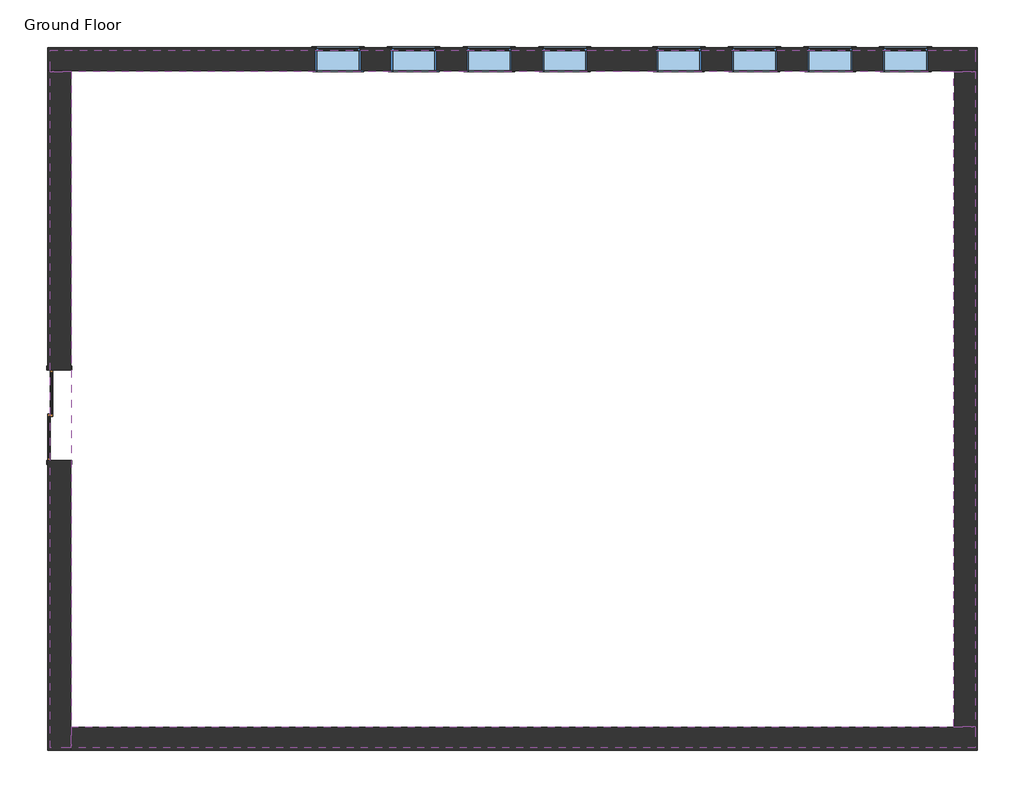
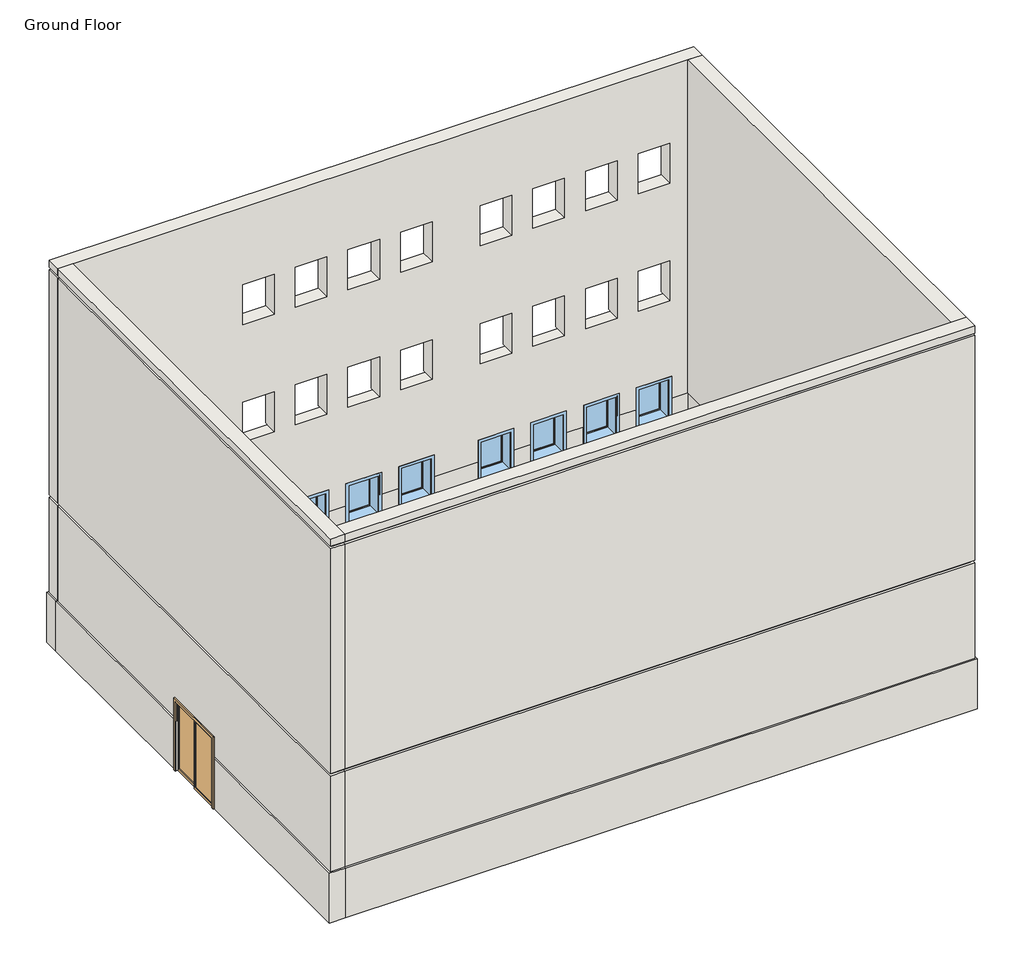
# One storey: 8 walls, 8 windows, 1 door.
"""IFC4 building model written with IfcOpenShell, lengths in millimetres."""

import ifcopenshell
import ifcopenshell.guid

model = None  # the IFC model being written
_history = None  # IfcOwnerHistory: only IFC2X3 demands one
_inside = {}  # id of a spatial element -> (the spatial element, [elements in it])
_under = {}  # id of a project, library or spatial element -> (it, [spatial elements below it])
_declared = {}  # id of a project -> (the project, [libraries it declares])
_typed = {}  # id of a type object -> (the type object, [elements of that type])
_made_of = {}  # id of a material, layer set ... -> (it, [elements and type objects made of it])


def new_model(schema):
    """Start an empty IFC model of exactly this schema.

    Asked for "IFC4X3", IfcOpenShell would pick the latest addendum, in which some entities
    have other attributes; the version numbers below select the first issue.
    IFC2X3 requires an IfcOwnerHistory on every rooted entity: one is made here for all.
    """
    global model, _history
    if schema == "IFC4X3":
        model = ifcopenshell.file(schema_version=(4, 3, 0, 0))
    else:
        model = ifcopenshell.file(schema=schema)
    _inside.clear()
    _under.clear()
    _declared.clear()
    _typed.clear()
    _made_of.clear()
    _history = None
    if model.schema == "IFC2X3":
        org = make("IfcOrganization", Name="unknown")
        user = make(
            "IfcPersonAndOrganization",
            ThePerson=make("IfcPerson", FamilyName="unknown"),
            TheOrganization=org,
        )
        app = make(
            "IfcApplication",
            ApplicationDeveloper=org,
            Version="unknown",
            ApplicationFullName="unknown",
            ApplicationIdentifier="unknown",
        )
        _history = make(
            "IfcOwnerHistory",
            OwningUser=user,
            OwningApplication=app,
            ChangeAction="ADDED",
            CreationDate=0,
        )
    return model


def make(cls, **values):
    """One entity of the class cls with the attributes given. An attribute that is None is left unset."""
    return model.create_entity(
        cls, **{name: value for name, value in values.items() if value is not None}
    )


def rooted(cls, **values):
    """An entity with a GlobalId (a new one), such as an element, a storey or a relation."""
    return make(cls, GlobalId=ifcopenshell.guid.new(), OwnerHistory=_history, **values)


def si_unit(unit_type, name, prefix=None):
    """IfcSIUnit, for example si_unit("LENGTHUNIT", "METRE", prefix="MILLI")."""
    return make("IfcSIUnit", UnitType=unit_type, Prefix=prefix, Name=name)


def assignment(units):
    """IfcUnitAssignment: the units of a project."""
    return None if units is None else make("IfcUnitAssignment", Units=units)


def point(xyz):
    """IfcCartesianPoint."""
    return None if xyz is None else make("IfcCartesianPoint", Coordinates=xyz)


def direction(xyz):
    """IfcDirection."""
    return None if xyz is None else make("IfcDirection", DirectionRatios=xyz)


def frame(location, z_axis=None, x_axis=None):
    """IfcAxis2Placement3D, a coordinate frame: its origin and axes. An axis left out is left unset."""
    return make(
        "IfcAxis2Placement3D",
        Location=point(location),
        Axis=direction(z_axis),
        RefDirection=direction(x_axis),
    )


def origin():
    """The frame at (0, 0, 0) with its axes left unset."""
    return frame((0.0, 0.0, 0.0))


def origin_with_axes():
    """The frame at (0, 0, 0) with the z axis (0, 0, 1) and the x axis (1, 0, 0) written out."""
    return frame((0.0, 0.0, 0.0), z_axis=(0.0, 0.0, 1.0), x_axis=(1.0, 0.0, 0.0))


def place(relative_to, where):
    """IfcLocalPlacement: puts the frame where relative to a parent placement (None: the world)."""
    return make(
        "IfcLocalPlacement", PlacementRelTo=relative_to, RelativePlacement=where
    )


def context(
    kind, dimensions, precision=None, world=None, true_north=None, identifier=None
):
    """IfcGeometricRepresentationContext, for example the 3D "Model" context."""
    return make(
        "IfcGeometricRepresentationContext",
        ContextIdentifier=identifier,
        ContextType=kind,
        CoordinateSpaceDimension=dimensions,
        Precision=precision,
        WorldCoordinateSystem=world,
        TrueNorth=true_north,
    )


def project(units=None, contexts=None):
    """IfcProject with its units and contexts."""
    return rooted(
        "IfcProject",
        Name="project",
        RepresentationContexts=contexts,
        UnitsInContext=assignment(units),
    )


def spatial(cls, under=None, at=None, **own):
    """A site, building, storey or space (cls), placed at a placement, below another one or the project."""
    s = rooted(cls, ObjectPlacement=at, **own)
    if under is not None:
        _under.setdefault(under.id(), (under, []))[1].append(s)
    return s


def polyline(points):
    """IfcPolyline through the points."""
    return make("IfcPolyline", Points=[point(p) for p in points])


def outline(outer, holes=None, kind="AREA"):
    """IfcArbitraryClosedProfileDef: a profile drawn as a closed curve; with holes, ...WithVoids."""
    if holes is None:
        return make("IfcArbitraryClosedProfileDef", ProfileType=kind, OuterCurve=outer)
    return make(
        "IfcArbitraryProfileDefWithVoids",
        ProfileType=kind,
        OuterCurve=outer,
        InnerCurves=holes,
    )


def extrude(swept, where, along, depth):
    """IfcExtrudedAreaSolid: the profile swept, set in the frame where, extruded along a direction by depth."""
    return make(
        "IfcExtrudedAreaSolid",
        SweptArea=swept,
        Position=where,
        ExtrudedDirection=direction(along),
        Depth=depth,
    )


def faces_of(points, faces, orient=None, outer=None):
    """IfcFace entities. A face is a list of loops; a loop is a list of indices into points, from 0.

    orient and outer hold one flag for each loop. By default every Orientation is true, the
    first loop of a face is its IfcFaceOuterBound and the others are IfcFaceBound.
    """
    made = []
    for i, loops in enumerate(faces):
        bounds = []
        for j, loop in enumerate(loops):
            is_outer = j == 0 if outer is None else outer[i][j]
            bounds.append(
                make(
                    "IfcFaceOuterBound" if is_outer else "IfcFaceBound",
                    Bound=make("IfcPolyLoop", Polygon=[points[k] for k in loop]),
                    Orientation=True if orient is None else orient[i][j],
                )
            )
        made.append(make("IfcFace", Bounds=bounds))
    return made


def faceted_brep(points, faces, orient=None, outer=None, voids=None):
    """IfcFacetedBrep: a solid bounded by flat faces; with voids (closed shells), ...WithVoids."""
    shared = [point(p) for p in points]
    hull = make("IfcClosedShell", CfsFaces=faces_of(shared, faces, orient, outer))
    if voids is None:
        return make("IfcFacetedBrep", Outer=hull)
    return make(
        "IfcFacetedBrepWithVoids",
        Outer=hull,
        Voids=[
            make(cls, CfsFaces=faces_of(shared, fs, o, b)) for cls, fs, o, b in voids
        ],
    )


def shape(context_of_items, identifier, shape_type, items):
    """IfcShapeRepresentation: the items that make up one representation, for example the "Body"."""
    return make(
        "IfcShapeRepresentation",
        ContextOfItems=context_of_items,
        RepresentationIdentifier=identifier,
        RepresentationType=shape_type,
        Items=items,
    )


def source(mapping_origin, context_of_items, identifier, shape_type, items):
    """IfcRepresentationMap: a shape defined once, which mapped items show again and again."""
    return make(
        "IfcRepresentationMap",
        MappingOrigin=mapping_origin,
        MappedRepresentation=shape(context_of_items, identifier, shape_type, items),
    )


def transform(
    local_origin,
    x_axis=None,
    y_axis=None,
    z_axis=None,
    scale=None,
    scale2=None,
    scale3=None,
    uniform=True,
):
    """IfcCartesianTransformationOperator3D, or its non-uniform kind. x_axis, y_axis, z_axis: its Axis1, 2, 3."""
    if uniform:
        return make(
            "IfcCartesianTransformationOperator3D",
            Axis1=direction(x_axis),
            Axis2=direction(y_axis),
            LocalOrigin=point(local_origin),
            Scale=scale,
            Axis3=direction(z_axis),
        )
    return make(
        "IfcCartesianTransformationOperator3DnonUniform",
        Axis1=direction(x_axis),
        Axis2=direction(y_axis),
        LocalOrigin=point(local_origin),
        Scale=scale,
        Axis3=direction(z_axis),
        Scale2=scale2,
        Scale3=scale3,
    )


def mapped(mapping_source, mapping_target):
    """IfcMappedItem: shows the shape of a source again, moved by a transform."""
    return make(
        "IfcMappedItem", MappingSource=mapping_source, MappingTarget=mapping_target
    )


def made_of(thing, what):
    """Note that an element or type object is made of a material, layer set ...; save() writes the relation."""
    if what is not None:
        _made_of.setdefault(what.id(), (what, []))[1].append(thing)
    return thing


def element(
    cls,
    number,
    at=None,
    inside=None,
    cuts=None,
    type_object=None,
    material=None,
    context=None,
    identifier="Body",
    shape_type=None,
    held_by="IfcProductDefinitionShape",
    body=None,
    shapes=None,
    **own,
):
    """One element of the class cls, such as IfcWall. Its Tag is "e" and its number.

    at: its placement. inside: the storey or other place that contains it. cuts: it is an
    opening in that element (IfcRelVoidsElement). A single representation is given by context,
    identifier, shape_type and body (its items); several are given by shapes. held_by: the class
    of the entity that holds the representations. save() writes the other relations.
    """
    e = rooted(cls, Tag="e%d" % number, ObjectPlacement=at, **own)
    if body is not None:
        shapes = [shape(context, identifier, shape_type, body)]
    if shapes is not None:
        e.Representation = make(held_by, Representations=shapes)
    if inside is not None:
        _inside.setdefault(inside.id(), (inside, []))[1].append(e)
    if cuts is not None:
        rooted(
            "IfcRelVoidsElement", RelatingBuildingElement=cuts, RelatedOpeningElement=e
        )
    if type_object is not None:
        _typed.setdefault(type_object.id(), (type_object, []))[1].append(e)
    return made_of(e, material)


def aggregate(whole, parts):
    """IfcRelAggregates: a whole, such as a stair, and the parts it consists of."""
    return rooted("IfcRelAggregates", RelatingObject=whole, RelatedObjects=parts)


def save(model, path):
    """Write the relations noted so far, then the file.

    IfcRelAggregates (storeys below a building ...), IfcRelContainedInSpatialStructure (elements
    in a storey), IfcRelDefinesByType, IfcRelAssociatesMaterial and IfcRelDeclares: one each for
    every whole, place, type object, material and project.
    """
    for whole, parts in _under.values():
        aggregate(whole, parts)
    for where, things in _inside.values():
        rooted(
            "IfcRelContainedInSpatialStructure",
            RelatedElements=things,
            RelatingStructure=where,
        )
    for kind, things in _typed.values():
        rooted("IfcRelDefinesByType", RelatedObjects=things, RelatingType=kind)
    for what, things in _made_of.values():
        rooted("IfcRelAssociatesMaterial", RelatedObjects=things, RelatingMaterial=what)
    for by, libraries in _declared.values():
        rooted("IfcRelDeclares", RelatingContext=by, RelatedDefinitions=libraries)
    model.write(path)


def m_sliding_2_panel_1830_x_2134mm_b40b9b25(model_context):
    return source(origin(), model_context, "Body", "SweptSolid", [
        extrude(outline(polyline([(25.4, 285.175), (865.0, 285.175), (865.0, 278.825), (25.4, 278.825), (25.4, 285.175)])), frame((0.0, 0.0, 75.0), z_axis=(0.0, 0.0, 1.0), x_axis=(1.0, 0.0, 0.0)), (0.0, 0.0, 1.0), 1984.0),
        extrude(outline(polyline([(2134.0, -25.4), (0.0, -25.4), (0.0, 915.0), (2134.0, 915.0), (2134.0, -25.4)]), holes=[polyline([(2059.0, 24.6), (2059.0, 865.0), (75.0, 865.0), (75.0, 24.6), (2059.0, 24.6)])]), frame((0.0, 257.0, 0.0), z_axis=(0.0, 1.0, 0.0), x_axis=(0.0, 0.0, 1.0)), (0.0, 0.0, 1.0), 50.0),
        extrude(outline(polyline([(-865.0, 335.175), (-24.6, 335.175), (-24.6, 328.825), (-865.0, 328.825), (-865.0, 335.175)])), frame((0.0, 0.0, 75.0), z_axis=(0.0, 0.0, 1.0), x_axis=(1.0, 0.0, 0.0)), (0.0, 0.0, 1.0), 1984.0),
        extrude(outline(polyline([(2134.0, 25.4), (2134.0, -915.0), (0.0, -915.0), (0.0, 25.4), (2134.0, 25.4)]), holes=[polyline([(2059.0, -24.6), (75.0, -24.6), (75.0, -865.0), (2059.0, -865.0), (2059.0, -24.6)])]), frame((0.0, 307.0, 0.0), z_axis=(0.0, 1.0, 0.0), x_axis=(0.0, 0.0, 1.0)), (0.0, 0.0, 1.0), 50.0),
        extrude(outline(polyline([(0.0, -990.0), (0.0, -915.0), (2134.0, -915.0), (2134.0, 915.0), (0.0, 915.0), (0.0, 990.0), (2209.0, 990.0), (2209.0, -990.0), (0.0, -990.0)])), frame((0.0, -128.0, 0.0), z_axis=(0.0, 1.0, 0.0), x_axis=(0.0, 0.0, 1.0)), (0.0, 0.0, 1.0), 25.0),
        extrude(outline(polyline([(0.0, 990.0), (2209.0, 990.0), (2209.0, -990.0), (0.0, -990.0), (0.0, -915.0), (2134.0, -915.0), (2134.0, 915.0), (0.0, 915.0), (0.0, 990.0)])), frame((0.0, 357.0, 0.0), z_axis=(0.0, 1.0, 0.0), x_axis=(0.0, 0.0, 1.0)), (0.0, 0.0, 1.0), 25.0),
    ])


def m_awning_with_trim_0915_x_1220mm_bfbb01a6(model_context):
    return source(origin(), model_context, "Body", "SweptSolid", [
        extrude(outline(polyline([(-527.45, 255.7), (527.45, 255.7), (527.45, 230.0), (-527.45, 230.0), (-527.45, 255.7)])), frame((0.0, 0.0, 915.0), z_axis=(0.0, 0.0, 1.0), x_axis=(1.0, 0.0, 0.0)), (0.0, 0.0, 1.0), 19.05),
        extrude(outline(polyline([(2115.95, -438.45), (2115.95, 438.45), (934.05, 438.45), (934.05, 527.45), (2204.95, 527.45), (2204.95, -527.45), (934.05, -527.45), (934.05, -438.45), (2115.95, -438.45)])), frame((0.0, 230.0, 0.0), z_axis=(0.0, 1.0, 0.0), x_axis=(0.0, 0.0, 1.0)), (0.0, 0.0, 1.0), 13.0),
        extrude(outline(polyline([(2192.25, 514.75), (2192.25, -514.75), (857.75, -514.75), (857.75, 514.75), (2192.25, 514.75)]), holes=[polyline([(2103.25, 425.75), (946.75, 425.75), (946.75, -425.75), (2103.25, -425.75), (2103.25, 425.75)])]), frame((0.0, -249.0, 0.0), z_axis=(0.0, 1.0, 0.0), x_axis=(0.0, 0.0, 1.0)), (0.0, 0.0, 1.0), 19.0),
        extrude(outline(polyline([(394.0, 182.425), (-394.0, 182.425), (-394.0, 195.125), (394.0, 195.125), (394.0, 182.425)])), frame((0.0, 0.0, 978.5), z_axis=(0.0, 0.0, 1.0), x_axis=(1.0, 0.0, 0.0)), (0.0, 0.0, 1.0), 1093.0),
        extrude(outline(polyline([(2115.95, -438.45), (934.05, -438.45), (934.05, 438.45), (2115.95, 438.45), (2115.95, -438.45)]), holes=[polyline([(2071.5, -394.0), (2071.5, 394.0), (978.5, 394.0), (978.5, -394.0), (2071.5, -394.0)])]), frame((0.0, 166.55, 0.0), z_axis=(0.0, 1.0, 0.0), x_axis=(0.0, 0.0, 1.0)), (0.0, 0.0, 1.0), 44.45),
        extrude(outline(polyline([(2135.0, -457.5), (915.0, -457.5), (915.0, 457.5), (2135.0, 457.5), (2135.0, -457.5)]), holes=[polyline([(2103.25, -425.75), (2103.25, 425.75), (946.75, 425.75), (946.75, -425.75), (2103.25, -425.75)])]), frame((0.0, -230.0, 0.0), z_axis=(0.0, 1.0, 0.0), x_axis=(0.0, 0.0, 1.0)), (0.0, 0.0, 1.0), 396.55),
        extrude(outline(polyline([(2135.0, 457.5), (2135.0, -457.5), (915.0, -457.5), (915.0, 457.5), (2135.0, 457.5)]), holes=[polyline([(2115.95, 438.45), (934.05, 438.45), (934.05, -438.45), (2115.95, -438.45), (2115.95, 438.45)])]), frame((0.0, 166.55, 0.0), z_axis=(0.0, 1.0, 0.0), x_axis=(0.0, 0.0, 1.0)), (0.0, 0.0, 1.0), 63.45),
    ])


def m_awning_with_trim_0915_x_1220mm_118d3a6c(model_context):
    return source(origin(), model_context, "Body", "SweptSolid", [
        extrude(outline(polyline([(-527.45, -255.7), (-527.45, -230.0), (527.45, -230.0), (527.45, -255.7), (-527.45, -255.7)])), frame((0.0, 0.0, 915.0), z_axis=(0.0, 0.0, 1.0), x_axis=(1.0, 0.0, 0.0)), (0.0, 0.0, 1.0), 19.05),
        extrude(outline(polyline([(2115.95, -438.45), (2115.95, 438.45), (934.05, 438.45), (934.05, 527.45), (2204.95, 527.45), (2204.95, -527.45), (934.05, -527.45), (934.05, -438.45), (2115.95, -438.45)])), frame((0.0, -243.0, 0.0), z_axis=(0.0, 1.0, 0.0), x_axis=(0.0, 0.0, 1.0)), (0.0, 0.0, 1.0), 13.0),
        extrude(outline(polyline([(2192.25, 514.75), (2192.25, -514.75), (857.75, -514.75), (857.75, 514.75), (2192.25, 514.75)]), holes=[polyline([(2103.25, 425.75), (946.75, 425.75), (946.75, -425.75), (2103.25, -425.75), (2103.25, 425.75)])]), frame((0.0, 230.0, 0.0), z_axis=(0.0, 1.0, 0.0), x_axis=(0.0, 0.0, 1.0)), (0.0, 0.0, 1.0), 19.0),
        extrude(outline(polyline([(394.0, -182.425), (394.0, -195.125), (-394.0, -195.125), (-394.0, -182.425), (394.0, -182.425)])), frame((0.0, 0.0, 978.5), z_axis=(0.0, 0.0, 1.0), x_axis=(1.0, 0.0, 0.0)), (0.0, 0.0, 1.0), 1093.0),
        extrude(outline(polyline([(2115.95, -438.45), (934.05, -438.45), (934.05, 438.45), (2115.95, 438.45), (2115.95, -438.45)]), holes=[polyline([(2071.5, -394.0), (2071.5, 394.0), (978.5, 394.0), (978.5, -394.0), (2071.5, -394.0)])]), frame((0.0, -211.0, 0.0), z_axis=(0.0, 1.0, 0.0), x_axis=(0.0, 0.0, 1.0)), (0.0, 0.0, 1.0), 44.45),
        extrude(outline(polyline([(2135.0, -457.5), (915.0, -457.5), (915.0, 457.5), (2135.0, 457.5), (2135.0, -457.5)]), holes=[polyline([(2103.25, -425.75), (2103.25, 425.75), (946.75, 425.75), (946.75, -425.75), (2103.25, -425.75)])]), frame((0.0, -166.55, 0.0), z_axis=(0.0, 1.0, 0.0), x_axis=(0.0, 0.0, 1.0)), (0.0, 0.0, 1.0), 396.55),
        extrude(outline(polyline([(2135.0, 457.5), (2135.0, -457.5), (915.0, -457.5), (915.0, 457.5), (2135.0, 457.5)]), holes=[polyline([(2115.95, 438.45), (934.05, 438.45), (934.05, -438.45), (2115.95, -438.45), (2115.95, 438.45)])]), frame((0.0, -230.0, 0.0), z_axis=(0.0, 1.0, 0.0), x_axis=(0.0, 0.0, 1.0)), (0.0, 0.0, 1.0), 63.45),
    ])


model = new_model("IFC4")

# Units and contexts
model_context = context("Model", 3, world=origin())
ifc_project = project(units=[si_unit("LENGTHUNIT", "METRE", prefix="MILLI")], contexts=[model_context])

# Site, building, storey
site = spatial("IfcSite", under=ifc_project)
building = spatial("IfcBuilding", under=site)
storey = spatial("IfcBuildingStorey", under=building, Name="Ground Floor", Elevation=0.0)

# Door
placement = place(None, origin())
m_sliding_2_panel_1830_x_2134mm_shape = m_sliding_2_panel_1830_x_2134mm_b40b9b25(model_context)
element("IfcDoor", 1, ObjectType="M_Sliding-2 Panel : 1830 x 2134mm", at=placement, inside=storey, context=model_context, shape_type="MappedRepresentation", body=[
    mapped(m_sliding_2_panel_1830_x_2134mm_shape, transform((-1292.2150684, -3548.1132923, 0.0), x_axis=(0.0, 1.0, 0.0), y_axis=(-1.0, 0.0, 0.0), z_axis=(0.0, 0.0, 1.0))),
])

# Walls
element("IfcWall", 2, ObjectType="Exterior - Block on Mtl. Stud", at=placement, inside=storey, context=model_context, shape_type="Brep", body=[
    faceted_brep([(-1649.2150684, 3407.407772, 0.0), (-1189.2150684, 3407.407772, 0.0), (16638.7849316, 3407.407772, 0.0), (17098.7849316, 3407.407772, 0.0), (17098.7849316, 3407.407772, 1524.0), (16638.7849316, 3407.407772, 1524.0), (16107.2849316, 3407.407772, 1524.0), (16107.2849316, 3407.407772, 915.0), (15192.2849316, 3407.407772, 915.0), (15192.2849316, 3407.407772, 1524.0), (14583.2849316, 3407.407772, 1524.0), (14583.2849316, 3407.407772, 915.0), (13668.2849316, 3407.407772, 915.0), (13668.2849316, 3407.407772, 1524.0), (13059.2849316, 3407.407772, 1524.0), (13059.2849316, 3407.407772, 915.0), (12144.2849316, 3407.407772, 915.0), (12144.2849316, 3407.407772, 1524.0), (11535.2849316, 3407.407772, 1524.0), (11535.2849316, 3407.407772, 915.0), (10620.2849316, 3407.407772, 915.0), (10620.2849316, 3407.407772, 1524.0), (9233.7849316, 3407.407772, 1524.0), (9233.7849316, 3407.407772, 915.0), (8318.7849316, 3407.407772, 915.0), (8318.7849316, 3407.407772, 1524.0), (7709.7849316, 3407.407772, 1524.0), (7709.7849316, 3407.407772, 915.0), (6794.7849316, 3407.407772, 915.0), (6794.7849316, 3407.407772, 1524.0), (6185.7849316, 3407.407772, 1524.0), (6185.7849316, 3407.407772, 915.0), (5270.7849316, 3407.407772, 915.0), (5270.7849316, 3407.407772, 1524.0), (4661.7849316, 3407.407772, 1524.0), (4661.7849316, 3407.407772, 915.0), (3746.7849316, 3407.407772, 915.0), (3746.7849316, 3407.407772, 1524.0), (-1189.2150684, 3407.407772, 1524.0), (-1649.2150684, 3407.407772, 1524.0), (17098.7849316, 3867.407772, 0.0), (-1649.2150684, 3867.407772, 0.0), (-1649.2150684, 3867.407772, 1524.0), (3746.7849316, 3867.407772, 1524.0), (3746.7849316, 3867.407772, 915.0), (4661.7849316, 3867.407772, 915.0), (4661.7849316, 3867.407772, 1524.0), (5270.7849316, 3867.407772, 1524.0), (5270.7849316, 3867.407772, 915.0), (6185.7849316, 3867.407772, 915.0), (6185.7849316, 3867.407772, 1524.0), (6794.7849316, 3867.407772, 1524.0), (6794.7849316, 3867.407772, 915.0), (7709.7849316, 3867.407772, 915.0), (7709.7849316, 3867.407772, 1524.0), (8318.7849316, 3867.407772, 1524.0), (8318.7849316, 3867.407772, 915.0), (9233.7849316, 3867.407772, 915.0), (9233.7849316, 3867.407772, 1524.0), (10620.2849316, 3867.407772, 1524.0), (10620.2849316, 3867.407772, 915.0), (11535.2849316, 3867.407772, 915.0), (11535.2849316, 3867.407772, 1524.0), (12144.2849316, 3867.407772, 1524.0), (12144.2849316, 3867.407772, 915.0), (13059.2849316, 3867.407772, 915.0), (13059.2849316, 3867.407772, 1524.0), (13668.2849316, 3867.407772, 1524.0), (13668.2849316, 3867.407772, 915.0), (14583.2849316, 3867.407772, 915.0), (14583.2849316, 3867.407772, 1524.0), (15192.2849316, 3867.407772, 1524.0), (15192.2849316, 3867.407772, 915.0), (16107.2849316, 3867.407772, 915.0), (16107.2849316, 3867.407772, 1524.0), (17098.7849316, 3867.407772, 1524.0), (3746.7849316, 3818.407772, 1524.0), (16107.2849316, 3818.407772, 1524.0), (15192.2849316, 3818.407772, 1524.0), (14583.2849316, 3818.407772, 1524.0), (13668.2849316, 3818.407772, 1524.0), (13059.2849316, 3818.407772, 1524.0), (12144.2849316, 3818.407772, 1524.0), (11535.2849316, 3818.407772, 1524.0), (10620.2849316, 3818.407772, 1524.0), (9233.7849316, 3818.407772, 1524.0), (8318.7849316, 3818.407772, 1524.0), (7709.7849316, 3818.407772, 1524.0), (6794.7849316, 3818.407772, 1524.0), (6185.7849316, 3818.407772, 1524.0), (5270.7849316, 3818.407772, 1524.0), (4661.7849316, 3818.407772, 1524.0)], [[[0, 1, 2, 3, 4, 5, 6, 7, 8, 9, 10, 11, 12, 13, 14, 15, 16, 17, 18, 19, 20, 21, 22, 23, 24, 25, 26, 27, 28, 29, 30, 31, 32, 33, 34, 35, 36, 37, 38, 39]], [[40, 41, 42, 43, 44, 45, 46, 47, 48, 49, 50, 51, 52, 53, 54, 55, 56, 57, 58, 59, 60, 61, 62, 63, 64, 65, 66, 67, 68, 69, 70, 71, 72, 73, 74, 75]], [[3, 2, 1, 0, 41, 40]], [[42, 39, 38, 37, 76, 43]], [[4, 75, 74, 77, 6, 5]], [[9, 78, 71, 70, 79, 10]], [[13, 80, 67, 66, 81, 14]], [[17, 82, 63, 62, 83, 18]], [[21, 84, 59, 58, 85, 22]], [[25, 86, 55, 54, 87, 26]], [[29, 88, 51, 50, 89, 30]], [[33, 90, 47, 46, 91, 34]], [[0, 39, 42, 41]], [[4, 3, 40, 75]], [[73, 7, 6, 77, 74]], [[7, 73, 72, 8]], [[8, 72, 71, 78, 9]], [[69, 11, 10, 79, 70]], [[11, 69, 68, 12]], [[12, 68, 67, 80, 13]], [[65, 15, 14, 81, 66]], [[15, 65, 64, 16]], [[16, 64, 63, 82, 17]], [[61, 19, 18, 83, 62]], [[19, 61, 60, 20]], [[20, 60, 59, 84, 21]], [[24, 56, 55, 86, 25]], [[56, 24, 23, 57]], [[57, 23, 22, 85, 58]], [[28, 52, 51, 88, 29]], [[52, 28, 27, 53]], [[53, 27, 26, 87, 54]], [[32, 48, 47, 90, 33]], [[48, 32, 31, 49]], [[49, 31, 30, 89, 50]], [[36, 44, 43, 76, 37]], [[44, 36, 35, 45]], [[45, 35, 34, 91, 46]]]),
])
element("IfcWall", 3, ObjectType="Exterior - Block on Mtl. Stud", at=placement, inside=storey, context=model_context, shape_type="Brep", body=[
    faceted_brep([(-1189.2150684, 3407.407772, 0.0), (-1189.2150684, 3407.407772, 1524.0), (-1189.2150684, -2633.1132923, 1524.0), (-1189.2150684, -2633.1132923, 0.0), (-1649.2150684, 3407.407772, 1524.0), (-1649.2150684, 3407.407772, 0.0), (-1649.2150684, -2633.1132923, 0.0), (-1649.2150684, -2633.1132923, 1524.0), (-1600.2150684, -2633.1132923, 1524.0)], [[[0, 1, 2, 3]], [[4, 5, 6, 7]], [[5, 0, 3, 6]], [[1, 4, 7, 8, 2]], [[1, 0, 5, 4]], [[3, 2, 8, 7, 6]]]),
    faceted_brep([(-1189.2150684, -10308.592228, 1524.0), (-1189.2150684, -10308.592228, 0.0), (-1189.2150684, -9848.592228, 0.0), (-1189.2150684, -4463.1132923, 0.0), (-1189.2150684, -4463.1132923, 1524.0), (-1189.2150684, -9848.592228, 1524.0), (-1649.2150684, -10308.592228, 0.0), (-1649.2150684, -10308.592228, 1524.0), (-1649.2150684, -4463.1132923, 1524.0), (-1649.2150684, -4463.1132923, 0.0), (-1600.2150684, -4463.1132923, 1524.0)], [[[0, 1, 2, 3, 4, 5]], [[6, 7, 8, 9]], [[1, 6, 9, 3, 2]], [[7, 0, 5, 4, 10, 8]], [[1, 0, 7, 6]], [[4, 3, 9, 8, 10]]]),
])
element("IfcWall", 4, ObjectType="Exterior - Block on Mtl. Stud", at=placement, inside=storey, context=model_context, shape_type="Brep", body=[
    faceted_brep([(17098.7849316, -9848.592228, 0.0), (16638.7849316, -9848.592228, 0.0), (-1189.2150684, -9848.592228, 0.0), (-1189.2150684, -9848.592228, 1524.0), (16638.7849316, -9848.592228, 1524.0), (17098.7849316, -9848.592228, 1524.0), (17098.7849316, -10308.592228, 0.0), (17098.7849316, -10308.592228, 1524.0), (-1189.2150684, -10308.592228, 1524.0), (-1189.2150684, -10308.592228, 0.0)], [[[0, 1, 2, 3, 4, 5]], [[6, 7, 8, 9]], [[2, 1, 0, 6, 9]], [[5, 4, 3, 8, 7]], [[0, 5, 7, 6]], [[3, 2, 9, 8]]]),
])
element("IfcWall", 5, ObjectType="Exterior - Block on Mtl. Stud", at=placement, inside=storey, context=model_context, shape_type="SweptSolid", body=[
    extrude(outline(polyline([(16638.7849316, -9848.592228), (16638.7849316, 3407.407772), (17098.7849316, 3407.407772), (17098.7849316, -9848.592228), (16638.7849316, -9848.592228)])), origin_with_axes(), (0.0, 0.0, 1.0), 1524.0),
])
element("IfcWall", 6, ObjectType="Exterior - Render on Brick on Block", at=placement, inside=storey, context=model_context, shape_type="Brep", body=[
    faceted_brep([(17049.7849316, 3389.407772, 11700.0), (16620.7849316, 3389.407772, 11700.0), (-1171.2150684, 3389.407772, 11700.0), (-1600.2150684, 3389.407772, 11700.0), (-1600.2150684, 3389.407772, 11475.0), (-1525.2150684, 3389.407772, 11475.0), (-1525.2150684, 3389.407772, 11400.0), (-1600.2150684, 3389.407772, 11400.0), (-1600.2150684, 3389.407772, 4524.0), (-1525.2150684, 3389.407772, 4524.0), (-1525.2150684, 3389.407772, 4449.0), (-1600.2150684, 3389.407772, 4449.0), (-1600.2150684, 3389.407772, 1524.0), (-1171.2150684, 3389.407772, 1524.0), (3746.7849316, 3389.407772, 1524.0), (3746.7849316, 3389.407772, 2135.0), (4661.7849316, 3389.407772, 2135.0), (4661.7849316, 3389.407772, 1524.0), (5270.7849316, 3389.407772, 1524.0), (5270.7849316, 3389.407772, 2135.0), (6185.7849316, 3389.407772, 2135.0), (6185.7849316, 3389.407772, 1524.0), (6794.7849316, 3389.407772, 1524.0), (6794.7849316, 3389.407772, 2135.0), (7709.7849316, 3389.407772, 2135.0), (7709.7849316, 3389.407772, 1524.0), (8318.7849316, 3389.407772, 1524.0), (8318.7849316, 3389.407772, 2135.0), (9233.7849316, 3389.407772, 2135.0), (9233.7849316, 3389.407772, 1524.0), (10620.2849316, 3389.407772, 1524.0), (10620.2849316, 3389.407772, 2135.0), (11535.2849316, 3389.407772, 2135.0), (11535.2849316, 3389.407772, 1524.0), (12144.2849316, 3389.407772, 1524.0), (12144.2849316, 3389.407772, 2135.0), (13059.2849316, 3389.407772, 2135.0), (13059.2849316, 3389.407772, 1524.0), (13668.2849316, 3389.407772, 1524.0), (13668.2849316, 3389.407772, 2135.0), (14583.2849316, 3389.407772, 2135.0), (14583.2849316, 3389.407772, 1524.0), (15192.2849316, 3389.407772, 1524.0), (15192.2849316, 3389.407772, 2135.0), (16107.2849316, 3389.407772, 2135.0), (16107.2849316, 3389.407772, 1524.0), (16620.7849316, 3389.407772, 1524.0), (17049.7849316, 3389.407772, 1524.0), (17049.7849316, 3389.407772, 4449.0), (16974.7849316, 3389.407772, 4449.0), (16974.7849316, 3389.407772, 4524.0), (17049.7849316, 3389.407772, 4524.0), (17049.7849316, 3389.407772, 11400.0), (16974.7849316, 3389.407772, 11400.0), (16974.7849316, 3389.407772, 11475.0), (17049.7849316, 3389.407772, 11475.0), (8318.7849316, 3389.407772, 4515.0), (8318.7849316, 3389.407772, 5735.0), (9233.7849316, 3389.407772, 5735.0), (9233.7849316, 3389.407772, 4515.0), (6794.7849316, 3389.407772, 4515.0), (6794.7849316, 3389.407772, 5735.0), (7709.7849316, 3389.407772, 5735.0), (7709.7849316, 3389.407772, 4515.0), (5270.7849316, 3389.407772, 4515.0), (5270.7849316, 3389.407772, 5735.0), (6185.7849316, 3389.407772, 5735.0), (6185.7849316, 3389.407772, 4515.0), (3746.7849316, 3389.407772, 4515.0), (3746.7849316, 3389.407772, 5735.0), (4661.7849316, 3389.407772, 5735.0), (4661.7849316, 3389.407772, 4515.0), (11535.2849316, 3389.407772, 5735.0), (11535.2849316, 3389.407772, 4515.0), (10620.2849316, 3389.407772, 4515.0), (10620.2849316, 3389.407772, 5735.0), (13059.2849316, 3389.407772, 5735.0), (13059.2849316, 3389.407772, 4515.0), (12144.2849316, 3389.407772, 4515.0), (12144.2849316, 3389.407772, 5735.0), (14583.2849316, 3389.407772, 5735.0), (14583.2849316, 3389.407772, 4515.0), (13668.2849316, 3389.407772, 4515.0), (13668.2849316, 3389.407772, 5735.0), (16107.2849316, 3389.407772, 5735.0), (16107.2849316, 3389.407772, 4515.0), (15192.2849316, 3389.407772, 4515.0), (15192.2849316, 3389.407772, 5735.0), (8318.7849316, 3389.407772, 8115.0), (8318.7849316, 3389.407772, 9335.0), (9233.7849316, 3389.407772, 9335.0), (9233.7849316, 3389.407772, 8115.0), (6794.7849316, 3389.407772, 8115.0), (6794.7849316, 3389.407772, 9335.0), (7709.7849316, 3389.407772, 9335.0), (7709.7849316, 3389.407772, 8115.0), (5270.7849316, 3389.407772, 8115.0), (5270.7849316, 3389.407772, 9335.0), (6185.7849316, 3389.407772, 9335.0), (6185.7849316, 3389.407772, 8115.0), (3746.7849316, 3389.407772, 8115.0), (3746.7849316, 3389.407772, 9335.0), (4661.7849316, 3389.407772, 9335.0), (4661.7849316, 3389.407772, 8115.0), (11535.2849316, 3389.407772, 9335.0), (11535.2849316, 3389.407772, 8115.0), (10620.2849316, 3389.407772, 8115.0), (10620.2849316, 3389.407772, 9335.0), (13059.2849316, 3389.407772, 9335.0), (13059.2849316, 3389.407772, 8115.0), (12144.2849316, 3389.407772, 8115.0), (12144.2849316, 3389.407772, 9335.0), (14583.2849316, 3389.407772, 9335.0), (14583.2849316, 3389.407772, 8115.0), (13668.2849316, 3389.407772, 8115.0), (13668.2849316, 3389.407772, 9335.0), (16107.2849316, 3389.407772, 9335.0), (16107.2849316, 3389.407772, 8115.0), (15192.2849316, 3389.407772, 8115.0), (15192.2849316, 3389.407772, 9335.0), (-1600.2150684, 3818.407772, 11700.0), (17049.7849316, 3818.407772, 11700.0), (17049.7849316, 3818.407772, 11475.0), (-1600.2150684, 3818.407772, 11475.0), (-1600.2150684, 3818.407772, 1524.0), (-1600.2150684, 3818.407772, 4449.0), (17049.7849316, 3818.407772, 4449.0), (17049.7849316, 3818.407772, 1524.0), (16107.2849316, 3818.407772, 1524.0), (16107.2849316, 3818.407772, 2135.0), (15192.2849316, 3818.407772, 2135.0), (15192.2849316, 3818.407772, 1524.0), (14583.2849316, 3818.407772, 1524.0), (14583.2849316, 3818.407772, 2135.0), (13668.2849316, 3818.407772, 2135.0), (13668.2849316, 3818.407772, 1524.0), (13059.2849316, 3818.407772, 1524.0), (13059.2849316, 3818.407772, 2135.0), (12144.2849316, 3818.407772, 2135.0), (12144.2849316, 3818.407772, 1524.0), (11535.2849316, 3818.407772, 1524.0), (11535.2849316, 3818.407772, 2135.0), (10620.2849316, 3818.407772, 2135.0), (10620.2849316, 3818.407772, 1524.0), (9233.7849316, 3818.407772, 1524.0), (9233.7849316, 3818.407772, 2135.0), (8318.7849316, 3818.407772, 2135.0), (8318.7849316, 3818.407772, 1524.0), (7709.7849316, 3818.407772, 1524.0), (7709.7849316, 3818.407772, 2135.0), (6794.7849316, 3818.407772, 2135.0), (6794.7849316, 3818.407772, 1524.0), (6185.7849316, 3818.407772, 1524.0), (6185.7849316, 3818.407772, 2135.0), (5270.7849316, 3818.407772, 2135.0), (5270.7849316, 3818.407772, 1524.0), (4661.7849316, 3818.407772, 1524.0), (4661.7849316, 3818.407772, 2135.0), (3746.7849316, 3818.407772, 2135.0), (3746.7849316, 3818.407772, 1524.0), (17049.7849316, 3818.407772, 4524.0), (16107.2849316, 3818.407772, 4524.0), (16107.2849316, 3818.407772, 5735.0), (15192.2849316, 3818.407772, 5735.0), (15192.2849316, 3818.407772, 4524.0), (14583.2849316, 3818.407772, 4524.0), (14583.2849316, 3818.407772, 5735.0), (13668.2849316, 3818.407772, 5735.0), (13668.2849316, 3818.407772, 4524.0), (13059.2849316, 3818.407772, 4524.0), (13059.2849316, 3818.407772, 5735.0), (12144.2849316, 3818.407772, 5735.0), (12144.2849316, 3818.407772, 4524.0), (11535.2849316, 3818.407772, 4524.0), (11535.2849316, 3818.407772, 5735.0), (10620.2849316, 3818.407772, 5735.0), (10620.2849316, 3818.407772, 4524.0), (9233.7849316, 3818.407772, 4524.0), (9233.7849316, 3818.407772, 5735.0), (8318.7849316, 3818.407772, 5735.0), (8318.7849316, 3818.407772, 4524.0), (7709.7849316, 3818.407772, 4524.0), (7709.7849316, 3818.407772, 5735.0), (6794.7849316, 3818.407772, 5735.0), (6794.7849316, 3818.407772, 4524.0), (6185.7849316, 3818.407772, 4524.0), (6185.7849316, 3818.407772, 5735.0), (5270.7849316, 3818.407772, 5735.0), (5270.7849316, 3818.407772, 4524.0), (4661.7849316, 3818.407772, 4524.0), (4661.7849316, 3818.407772, 5735.0), (3746.7849316, 3818.407772, 5735.0), (3746.7849316, 3818.407772, 4524.0), (-1600.2150684, 3818.407772, 4524.0), (-1600.2150684, 3818.407772, 11400.0), (17049.7849316, 3818.407772, 11400.0), (8318.7849316, 3818.407772, 9335.0), (8318.7849316, 3818.407772, 8115.0), (9233.7849316, 3818.407772, 8115.0), (9233.7849316, 3818.407772, 9335.0), (6794.7849316, 3818.407772, 9335.0), (6794.7849316, 3818.407772, 8115.0), (7709.7849316, 3818.407772, 8115.0), (7709.7849316, 3818.407772, 9335.0), (5270.7849316, 3818.407772, 9335.0), (5270.7849316, 3818.407772, 8115.0), (6185.7849316, 3818.407772, 8115.0), (6185.7849316, 3818.407772, 9335.0), (3746.7849316, 3818.407772, 9335.0), (3746.7849316, 3818.407772, 8115.0), (4661.7849316, 3818.407772, 8115.0), (4661.7849316, 3818.407772, 9335.0), (11535.2849316, 3818.407772, 8115.0), (11535.2849316, 3818.407772, 9335.0), (10620.2849316, 3818.407772, 9335.0), (10620.2849316, 3818.407772, 8115.0), (13059.2849316, 3818.407772, 8115.0), (13059.2849316, 3818.407772, 9335.0), (12144.2849316, 3818.407772, 9335.0), (12144.2849316, 3818.407772, 8115.0), (14583.2849316, 3818.407772, 8115.0), (14583.2849316, 3818.407772, 9335.0), (13668.2849316, 3818.407772, 9335.0), (13668.2849316, 3818.407772, 8115.0), (16107.2849316, 3818.407772, 8115.0), (16107.2849316, 3818.407772, 9335.0), (15192.2849316, 3818.407772, 9335.0), (15192.2849316, 3818.407772, 8115.0), (17049.7849316, 3793.407772, 1524.0), (16107.2849316, 3407.407772, 1524.0), (16107.2849316, 3793.407772, 1524.0), (-1600.2150684, 3793.407772, 1524.0), (3746.7849316, 3793.407772, 1524.0), (3746.7849316, 3407.407772, 1524.0), (15192.2849316, 3793.407772, 1524.0), (15192.2849316, 3407.407772, 1524.0), (14583.2849316, 3407.407772, 1524.0), (14583.2849316, 3793.407772, 1524.0), (13668.2849316, 3793.407772, 1524.0), (13668.2849316, 3407.407772, 1524.0), (13059.2849316, 3407.407772, 1524.0), (13059.2849316, 3793.407772, 1524.0), (12144.2849316, 3793.407772, 1524.0), (12144.2849316, 3407.407772, 1524.0), (11535.2849316, 3407.407772, 1524.0), (11535.2849316, 3793.407772, 1524.0), (10620.2849316, 3793.407772, 1524.0), (10620.2849316, 3407.407772, 1524.0), (9233.7849316, 3407.407772, 1524.0), (9233.7849316, 3793.407772, 1524.0), (8318.7849316, 3793.407772, 1524.0), (8318.7849316, 3407.407772, 1524.0), (7709.7849316, 3407.407772, 1524.0), (7709.7849316, 3793.407772, 1524.0), (6794.7849316, 3793.407772, 1524.0), (6794.7849316, 3407.407772, 1524.0), (6185.7849316, 3407.407772, 1524.0), (6185.7849316, 3793.407772, 1524.0), (5270.7849316, 3793.407772, 1524.0), (5270.7849316, 3407.407772, 1524.0), (4661.7849316, 3407.407772, 1524.0), (4661.7849316, 3793.407772, 1524.0), (-1525.2150684, 3743.407772, 4449.0), (-1525.2150684, 3743.407772, 4524.0), (3746.7849316, 3743.407772, 4524.0), (3746.7849316, 3743.407772, 4515.0), (4661.7849316, 3743.407772, 4515.0), (4661.7849316, 3743.407772, 4524.0), (5270.7849316, 3743.407772, 4524.0), (5270.7849316, 3743.407772, 4515.0), (6185.7849316, 3743.407772, 4515.0), (6185.7849316, 3743.407772, 4524.0), (6794.7849316, 3743.407772, 4524.0), (6794.7849316, 3743.407772, 4515.0), (7709.7849316, 3743.407772, 4515.0), (7709.7849316, 3743.407772, 4524.0), (8318.7849316, 3743.407772, 4524.0), (8318.7849316, 3743.407772, 4515.0), (9233.7849316, 3743.407772, 4515.0), (9233.7849316, 3743.407772, 4524.0), (10620.2849316, 3743.407772, 4524.0), (10620.2849316, 3743.407772, 4515.0), (11535.2849316, 3743.407772, 4515.0), (11535.2849316, 3743.407772, 4524.0), (12144.2849316, 3743.407772, 4524.0), (12144.2849316, 3743.407772, 4515.0), (13059.2849316, 3743.407772, 4515.0), (13059.2849316, 3743.407772, 4524.0), (13668.2849316, 3743.407772, 4524.0), (13668.2849316, 3743.407772, 4515.0), (14583.2849316, 3743.407772, 4515.0), (14583.2849316, 3743.407772, 4524.0), (15192.2849316, 3743.407772, 4524.0), (15192.2849316, 3743.407772, 4515.0), (16107.2849316, 3743.407772, 4515.0), (16107.2849316, 3743.407772, 4524.0), (16974.7849316, 3743.407772, 4524.0), (16974.7849316, 3743.407772, 4449.0), (-1525.2150684, 3743.407772, 11475.0), (16974.7849316, 3743.407772, 11475.0), (16974.7849316, 3743.407772, 11400.0), (-1525.2150684, 3743.407772, 11400.0)], [[[0, 1, 2, 3, 4, 5, 6, 7, 8, 9, 10, 11, 12, 13, 14, 15, 16, 17, 18, 19, 20, 21, 22, 23, 24, 25, 26, 27, 28, 29, 30, 31, 32, 33, 34, 35, 36, 37, 38, 39, 40, 41, 42, 43, 44, 45, 46, 47, 48, 49, 50, 51, 52, 53, 54, 55], [56, 57, 58, 59], [60, 61, 62, 63], [64, 65, 66, 67], [68, 69, 70, 71], [72, 73, 74, 75], [76, 77, 78, 79], [80, 81, 82, 83], [84, 85, 86, 87], [88, 89, 90, 91], [92, 93, 94, 95], [96, 97, 98, 99], [100, 101, 102, 103], [104, 105, 106, 107], [108, 109, 110, 111], [112, 113, 114, 115], [116, 117, 118, 119]], [[120, 121, 122, 123]], [[124, 125, 126, 127, 128, 129, 130, 131, 132, 133, 134, 135, 136, 137, 138, 139, 140, 141, 142, 143, 144, 145, 146, 147, 148, 149, 150, 151, 152, 153, 154, 155, 156, 157, 158, 159]], [[160, 161, 162, 163, 164, 165, 166, 167, 168, 169, 170, 171, 172, 173, 174, 175, 176, 177, 178, 179, 180, 181, 182, 183, 184, 185, 186, 187, 188, 189, 190, 191, 192, 193, 194, 195], [196, 197, 198, 199], [200, 201, 202, 203], [204, 205, 206, 207], [208, 209, 210, 211], [212, 213, 214, 215], [216, 217, 218, 219], [220, 221, 222, 223], [224, 225, 226, 227]], [[3, 2, 1, 0, 121, 120]], [[228, 47, 46, 45, 229, 230]], [[12, 231, 232, 233, 14, 13]], [[234, 235, 42, 41, 236, 237]], [[238, 239, 38, 37, 240, 241]], [[242, 243, 34, 33, 244, 245]], [[246, 247, 30, 29, 248, 249]], [[250, 251, 26, 25, 252, 253]], [[254, 255, 22, 21, 256, 257]], [[258, 259, 18, 17, 260, 261]], [[262, 263, 264, 265, 266, 267, 268, 269, 270, 271, 272, 273, 274, 275, 276, 277, 278, 279, 280, 281, 282, 283, 284, 285, 286, 287, 288, 289, 290, 291, 292, 293, 294, 295, 296, 297]], [[298, 299, 300, 301]], [[3, 120, 123, 4]], [[231, 12, 11, 125, 124]], [[193, 8, 7, 194]], [[121, 0, 55, 122]], [[47, 228, 127, 126, 48]], [[51, 160, 195, 52]], [[231, 124, 159, 232]], [[127, 228, 230, 128]], [[131, 234, 237, 132]], [[135, 238, 241, 136]], [[139, 242, 245, 140]], [[143, 246, 249, 144]], [[147, 250, 253, 148]], [[151, 254, 257, 152]], [[155, 258, 261, 156]], [[50, 296, 295, 161, 160, 51]], [[263, 9, 8, 193, 192, 264]], [[276, 275, 181, 180]], [[272, 271, 185, 184]], [[268, 267, 189, 188]], [[280, 279, 177, 176]], [[284, 283, 173, 172]], [[288, 287, 169, 168]], [[292, 291, 165, 164]], [[262, 297, 49, 48, 126, 125, 11, 10]], [[263, 262, 10, 9]], [[297, 296, 50, 49]], [[299, 298, 5, 4, 123, 122, 55, 54]], [[301, 300, 53, 52, 195, 194, 7, 6]], [[298, 301, 6, 5]], [[300, 299, 54, 53]], [[44, 129, 128, 230, 229, 45]], [[130, 43, 42, 235, 234, 131]], [[129, 44, 43, 130]], [[40, 133, 132, 237, 236, 41]], [[134, 39, 38, 239, 238, 135]], [[133, 40, 39, 134]], [[36, 137, 136, 241, 240, 37]], [[138, 35, 34, 243, 242, 139]], [[137, 36, 35, 138]], [[32, 141, 140, 245, 244, 33]], [[142, 31, 30, 247, 246, 143]], [[141, 32, 31, 142]], [[146, 27, 26, 251, 250, 147]], [[28, 145, 144, 249, 248, 29]], [[27, 146, 145, 28]], [[150, 23, 22, 255, 254, 151]], [[24, 149, 148, 253, 252, 25]], [[23, 150, 149, 24]], [[154, 19, 18, 259, 258, 155]], [[20, 153, 152, 257, 256, 21]], [[19, 154, 153, 20]], [[158, 15, 14, 233, 232, 159]], [[16, 157, 156, 261, 260, 17]], [[15, 158, 157, 16]], [[179, 57, 56, 277, 276, 180]], [[56, 59, 278, 277]], [[58, 178, 177, 279, 278, 59]], [[57, 179, 178, 58]], [[183, 61, 60, 273, 272, 184]], [[60, 63, 274, 273]], [[62, 182, 181, 275, 274, 63]], [[61, 183, 182, 62]], [[187, 65, 64, 269, 268, 188]], [[64, 67, 270, 269]], [[66, 186, 185, 271, 270, 67]], [[65, 187, 186, 66]], [[191, 69, 68, 265, 264, 192]], [[68, 71, 266, 265]], [[70, 190, 189, 267, 266, 71]], [[69, 191, 190, 70]], [[72, 174, 173, 283, 282, 73]], [[74, 73, 282, 281]], [[175, 75, 74, 281, 280, 176]], [[174, 72, 75, 175]], [[76, 170, 169, 287, 286, 77]], [[78, 77, 286, 285]], [[171, 79, 78, 285, 284, 172]], [[170, 76, 79, 171]], [[80, 166, 165, 291, 290, 81]], [[82, 81, 290, 289]], [[167, 83, 82, 289, 288, 168]], [[166, 80, 83, 167]], [[84, 162, 161, 295, 294, 85]], [[86, 85, 294, 293]], [[163, 87, 86, 293, 292, 164]], [[162, 84, 87, 163]], [[196, 89, 88, 197]], [[197, 88, 91, 198]], [[198, 91, 90, 199]], [[89, 196, 199, 90]], [[200, 93, 92, 201]], [[201, 92, 95, 202]], [[202, 95, 94, 203]], [[93, 200, 203, 94]], [[204, 97, 96, 205]], [[205, 96, 99, 206]], [[206, 99, 98, 207]], [[97, 204, 207, 98]], [[208, 101, 100, 209]], [[209, 100, 103, 210]], [[210, 103, 102, 211]], [[101, 208, 211, 102]], [[104, 213, 212, 105]], [[105, 212, 215, 106]], [[106, 215, 214, 107]], [[213, 104, 107, 214]], [[108, 217, 216, 109]], [[109, 216, 219, 110]], [[110, 219, 218, 111]], [[217, 108, 111, 218]], [[112, 221, 220, 113]], [[113, 220, 223, 114]], [[114, 223, 222, 115]], [[221, 112, 115, 222]], [[116, 225, 224, 117]], [[117, 224, 227, 118]], [[118, 227, 226, 119]], [[225, 116, 119, 226]]]),
])
element("IfcWall", 7, ObjectType="Exterior - Render on Brick on Block", at=placement, inside=storey, context=model_context, shape_type="Brep", body=[
    faceted_brep([(-1171.2150684, 3389.407772, 11700.0), (-1171.2150684, -9830.592228, 11700.0), (-1171.2150684, -10259.592228, 11700.0), (-1171.2150684, -10259.592228, 11475.0), (-1171.2150684, -10184.592228, 11475.0), (-1171.2150684, -10184.592228, 11400.0), (-1171.2150684, -10259.592228, 11400.0), (-1171.2150684, -10259.592228, 4524.0), (-1171.2150684, -10184.592228, 4524.0), (-1171.2150684, -10184.592228, 4449.0), (-1171.2150684, -10259.592228, 4449.0), (-1171.2150684, -10259.592228, 1524.0), (-1171.2150684, -9830.592228, 1524.0), (-1171.2150684, -4463.1132923, 1524.0), (-1171.2150684, -4463.1132923, 2134.0), (-1171.2150684, -2633.1132923, 2134.0), (-1171.2150684, -2633.1132923, 1524.0), (-1171.2150684, 3389.407772, 1524.0), (-1600.2150684, -10259.592228, 11700.0), (-1600.2150684, 3389.407772, 11700.0), (-1600.2150684, 3389.407772, 11475.0), (-1600.2150684, -10259.592228, 11475.0), (-1600.2150684, -10259.592228, 1524.0), (-1600.2150684, -10259.592228, 4449.0), (-1600.2150684, 3389.407772, 4449.0), (-1600.2150684, 3389.407772, 1524.0), (-1600.2150684, -2633.1132923, 1524.0), (-1600.2150684, -2633.1132923, 2134.0), (-1600.2150684, -4463.1132923, 2134.0), (-1600.2150684, -4463.1132923, 1524.0), (-1600.2150684, 3389.407772, 4524.0), (-1600.2150684, -10259.592228, 4524.0), (-1600.2150684, -10259.592228, 11400.0), (-1600.2150684, 3389.407772, 11400.0), (-1575.2150684, -10259.592228, 1524.0), (-1575.2150684, -4463.1132923, 1524.0), (-1189.2150684, -4463.1132923, 1524.0), (-1575.2150684, 3389.407772, 1524.0), (-1189.2150684, -2633.1132923, 1524.0), (-1575.2150684, -2633.1132923, 1524.0), (-1525.2150684, -10184.592228, 4449.0), (-1525.2150684, -10184.592228, 4524.0), (-1525.2150684, 3389.407772, 4524.0), (-1525.2150684, 3389.407772, 4449.0), (-1525.2150684, -10184.592228, 11400.0), (-1525.2150684, -10184.592228, 11475.0), (-1525.2150684, 3389.407772, 11475.0), (-1525.2150684, 3389.407772, 11400.0)], [[[0, 1, 2, 3, 4, 5, 6, 7, 8, 9, 10, 11, 12, 13, 14, 15, 16, 17]], [[18, 19, 20, 21]], [[22, 23, 24, 25, 26, 27, 28, 29]], [[30, 31, 32, 33]], [[2, 1, 0, 19, 18]], [[11, 34, 35, 36, 13, 12]], [[37, 17, 16, 38, 39]], [[40, 41, 42, 43]], [[44, 45, 46, 47]], [[2, 18, 21, 3]], [[34, 11, 10, 23, 22]], [[31, 7, 6, 32]], [[0, 17, 37, 25, 24, 43, 42, 30, 33, 47, 46, 20, 19]], [[34, 22, 29, 35]], [[25, 37, 39, 26]], [[42, 41, 8, 7, 31, 30]], [[40, 43, 24, 23, 10, 9]], [[41, 40, 9, 8]], [[46, 45, 4, 3, 21, 20]], [[44, 47, 33, 32, 6, 5]], [[45, 44, 5, 4]], [[28, 14, 13, 36, 35, 29]], [[15, 27, 26, 39, 38, 16]], [[14, 28, 27, 15]]]),
])
element("IfcWall", 8, ObjectType="Exterior - Render on Brick on Block", at=placement, inside=storey, context=model_context, shape_type="Brep", body=[
    faceted_brep([(17049.7849316, -9830.592228, 1524.0), (16620.7849316, -9830.592228, 1524.0), (-1171.2150684, -9830.592228, 1524.0), (-1171.2150684, -9830.592228, 11700.0), (16620.7849316, -9830.592228, 11700.0), (17049.7849316, -9830.592228, 11700.0), (17049.7849316, -9830.592228, 11475.0), (16974.7849316, -9830.592228, 11475.0), (16974.7849316, -9830.592228, 11400.0), (17049.7849316, -9830.592228, 11400.0), (17049.7849316, -9830.592228, 4524.0), (16974.7849316, -9830.592228, 4524.0), (16974.7849316, -9830.592228, 4449.0), (17049.7849316, -9830.592228, 4449.0), (17049.7849316, -10259.592228, 11700.0), (-1171.2150684, -10259.592228, 11700.0), (-1171.2150684, -10259.592228, 11475.0), (17049.7849316, -10259.592228, 11475.0), (-1171.2150684, -10259.592228, 1524.0), (17049.7849316, -10259.592228, 1524.0), (17049.7849316, -10259.592228, 4449.0), (-1171.2150684, -10259.592228, 4449.0), (-1171.2150684, -10259.592228, 4524.0), (17049.7849316, -10259.592228, 4524.0), (17049.7849316, -10259.592228, 11400.0), (-1171.2150684, -10259.592228, 11400.0), (17049.7849316, -10234.592228, 1524.0), (-1171.2150684, -10234.592228, 1524.0), (16974.7849316, -10184.592228, 4449.0), (16974.7849316, -10184.592228, 4524.0), (-1171.2150684, -10184.592228, 4524.0), (-1171.2150684, -10184.592228, 4449.0), (16974.7849316, -10184.592228, 11400.0), (16974.7849316, -10184.592228, 11475.0), (-1171.2150684, -10184.592228, 11475.0), (-1171.2150684, -10184.592228, 11400.0)], [[[0, 1, 2, 3, 4, 5, 6, 7, 8, 9, 10, 11, 12, 13]], [[14, 15, 16, 17]], [[18, 19, 20, 21]], [[22, 23, 24, 25]], [[5, 4, 3, 15, 14]], [[2, 1, 0, 26, 27]], [[28, 29, 30, 31]], [[32, 33, 34, 35]], [[5, 14, 17, 6]], [[26, 0, 13, 20, 19]], [[23, 10, 9, 24]], [[3, 2, 27, 18, 21, 31, 30, 22, 25, 35, 34, 16, 15]], [[19, 18, 27, 26]], [[30, 29, 11, 10, 23, 22]], [[28, 31, 21, 20, 13, 12]], [[29, 28, 12, 11]], [[34, 33, 7, 6, 17, 16]], [[32, 35, 25, 24, 9, 8]], [[33, 32, 8, 7]]]),
])
element("IfcWall", 9, ObjectType="Exterior - Render on Brick on Block", at=placement, inside=storey, context=model_context, shape_type="SweptSolid", body=[
    extrude(outline(polyline([(11700.0, 16620.7849316), (1524.0, 16620.7849316), (1524.0, 17024.7849316), (1524.0, 17049.7849316), (4449.0, 17049.7849316), (4449.0, 16974.7849316), (4524.0, 16974.7849316), (4524.0, 17049.7849316), (11400.0, 17049.7849316), (11400.0, 16974.7849316), (11475.0, 16974.7849316), (11475.0, 17049.7849316), (11700.0, 17049.7849316), (11700.0, 16620.7849316)])), frame((0.0, -9830.592228, 0.0), z_axis=(0.0, 1.0, 0.0), x_axis=(0.0, 0.0, 1.0)), (0.0, 0.0, 1.0), 13220.0),
])

# Windows
m_awning_with_trim_0915_x_1220mm_shape = m_awning_with_trim_0915_x_1220mm_bfbb01a6(model_context)
element("IfcWindow", 10, ObjectType="M_Awning with Trim : 0915 x 1220mm", at=placement, inside=storey, context=model_context, shape_type="MappedRepresentation", body=[
    mapped(m_awning_with_trim_0915_x_1220mm_shape, transform((15649.7849316, 3637.407772, 0.0), x_axis=(1.0, 0.0, 0.0), y_axis=(0.0, 1.0, 0.0), z_axis=(0.0, 0.0, 1.0))),
])
element("IfcWindow", 11, ObjectType="M_Awning with Trim : 0915 x 1220mm", at=placement, inside=storey, context=model_context, shape_type="MappedRepresentation", body=[
    mapped(m_awning_with_trim_0915_x_1220mm_shape, transform((14125.7849316, 3637.407772, 0.0), x_axis=(1.0, 0.0, 0.0), y_axis=(0.0, 1.0, 0.0), z_axis=(0.0, 0.0, 1.0))),
])
element("IfcWindow", 12, ObjectType="M_Awning with Trim : 0915 x 1220mm", at=placement, inside=storey, context=model_context, shape_type="MappedRepresentation", body=[
    mapped(m_awning_with_trim_0915_x_1220mm_shape, transform((12601.7849316, 3637.407772, 0.0), x_axis=(1.0, 0.0, 0.0), y_axis=(0.0, 1.0, 0.0), z_axis=(0.0, 0.0, 1.0))),
])
element("IfcWindow", 13, ObjectType="M_Awning with Trim : 0915 x 1220mm", at=placement, inside=storey, context=model_context, shape_type="MappedRepresentation", body=[
    mapped(m_awning_with_trim_0915_x_1220mm_shape, transform((11077.7849316, 3637.407772, 0.0), x_axis=(1.0, 0.0, 0.0), y_axis=(0.0, 1.0, 0.0), z_axis=(0.0, 0.0, 1.0))),
])
m_awning_with_trim_0915_x_1220mm_2_shape = m_awning_with_trim_0915_x_1220mm_118d3a6c(model_context)
element("IfcWindow", 14, ObjectType="M_Awning with Trim : 0915 x 1220mm", at=placement, inside=storey, context=model_context, shape_type="MappedRepresentation", body=[
    mapped(m_awning_with_trim_0915_x_1220mm_2_shape, transform((4204.2849316, 3637.407772, 0.0), x_axis=(-1.0, 0.0, 0.0), y_axis=(0.0, -1.0, 0.0), z_axis=(0.0, 0.0, 1.0))),
])
element("IfcWindow", 15, ObjectType="M_Awning with Trim : 0915 x 1220mm", at=placement, inside=storey, context=model_context, shape_type="MappedRepresentation", body=[
    mapped(m_awning_with_trim_0915_x_1220mm_2_shape, transform((5728.2849316, 3637.407772, 0.0), x_axis=(-1.0, 0.0, 0.0), y_axis=(0.0, -1.0, 0.0), z_axis=(0.0, 0.0, 1.0))),
])
element("IfcWindow", 16, ObjectType="M_Awning with Trim : 0915 x 1220mm", at=placement, inside=storey, context=model_context, shape_type="MappedRepresentation", body=[
    mapped(m_awning_with_trim_0915_x_1220mm_2_shape, transform((7252.2849316, 3637.407772, 0.0), x_axis=(-1.0, 0.0, 0.0), y_axis=(0.0, -1.0, 0.0), z_axis=(0.0, 0.0, 1.0))),
])
element("IfcWindow", 17, ObjectType="M_Awning with Trim : 0915 x 1220mm", at=placement, inside=storey, context=model_context, shape_type="MappedRepresentation", body=[
    mapped(m_awning_with_trim_0915_x_1220mm_2_shape, transform((8776.2849316, 3637.407772, 0.0), x_axis=(-1.0, 0.0, 0.0), y_axis=(0.0, -1.0, 0.0), z_axis=(0.0, 0.0, 1.0))),
])

save(model, "model.ifc")
